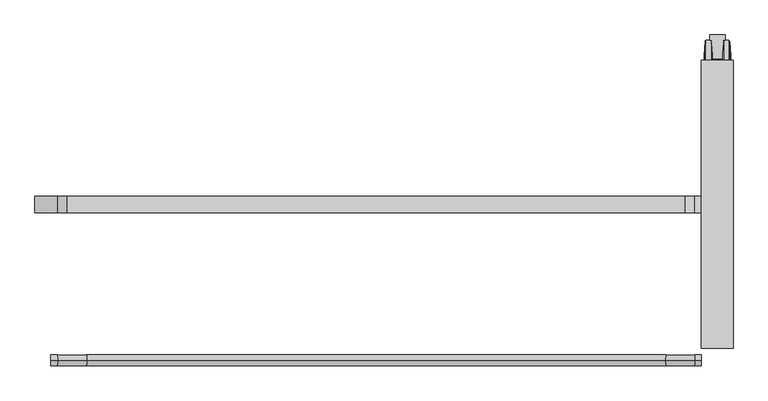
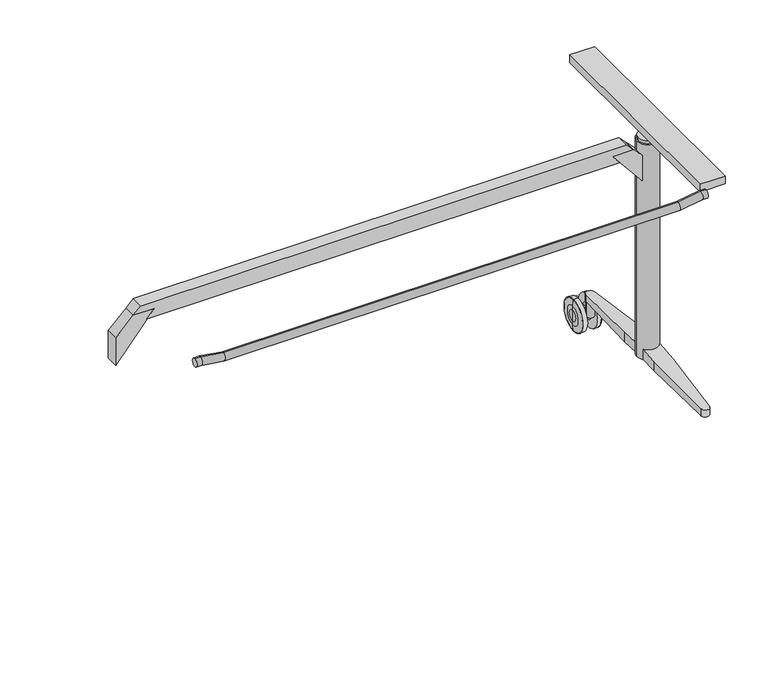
"""IFC4 building model written with IfcOpenShell, lengths in millimetres: furniture geometry, Table_Foldable_Wilkhahn_TimetableLift : 1500w x 750d (615/00)."""

from ifc_helpers import new_model, si_unit, point, frame, frame_2d, origin, place, context, project, spatial, polyline, circle_curve, ellipse_curve, trimmed, segment, composite_curve, outline, extrude, source, transform, mapped, element, save
from ifc_brep_helpers import plane_surface, cylinder_surface, revolved_surface, advanced_brep


def furniture_efb72d9c(model_context):
    return source(origin(), model_context, "Body", "SolidModel", [
        advanced_brep(
        [(620.4530674, 395.9511544, 26.9613134), (620.4530674, 395.9511544, 53.0387194), (620.4530674, 395.9511544, 40.0000164), (622.5845915, 395.9511544, 0.8972162), (622.5845915, 395.9511544, 79.1028166), (621.0121742, 395.9511544, 63.8876748), (621.0121742, 395.9511544, 16.1123581), (633.5439759, 395.9511544, 1.43e-05), (633.5439759, 395.9511544, 80.0000185), (623.5792938, 395.9511544, 80.0000185), (623.5792938, 395.9511544, 1.43e-05), (635.4530966, 395.9511544, 20.9999281), (635.4530966, 395.9511544, 59.0001048), (635.4530966, 395.9511544, 32.3463502), (635.4530966, 395.9511544, 47.6536826), (655.3531174, 395.9511544, 32.3463502), (655.3531174, 395.9511544, 47.6536826), (655.3531174, 395.9511544, 20.9999281), (655.3531174, 395.9511544, 59.0001048), (657.2622381, 395.9511544, 1.43e-05), (657.2622381, 395.9511544, 80.0000185), (666.3249398, 395.9511544, 1.43e-05), (666.3249398, 395.9511544, 80.0000185), (669.7942336, 395.9511544, 16.1142331), (669.7942336, 395.9511544, 63.8857997), (668.3143443, 395.9511544, 78.2056147), (668.3143443, 395.9511544, 1.7944182), (670.3531466, 395.9511544, 40.0000164), (670.3531466, 395.9511544, 53.0406045), (670.3531466, 395.9511544, 26.9594284)],
        [
            (0, 1, circle_curve(frame((620.4530674, 395.9511544, 40.0000164), z_axis=(-1.0, 0.0, 0.0), x_axis=(0.0, 0.0, 1.0)), 13.038703)),
            (1, 2),
            (2, 0),
            (1, 0, circle_curve(frame((620.4530674, 395.9511544, 40.0000164), z_axis=(-1.0, 0.0, 0.0), x_axis=(0.0, 0.0, 1.0)), 13.038703)),
            (3, 4, circle_curve(frame((622.5845915, 395.9511544, 40.0000164), z_axis=(-1.0, 0.0, 0.0), x_axis=(0.0, 0.0, 1.0)), 39.1028002)),
            (4, 5),
            (5, 6, circle_curve(frame((621.0121742, 395.9511544, 40.0000164), z_axis=(1.0, 0.0, 0.0), x_axis=(0.0, 0.0, 1.0)), 23.8876584)),
            (6, 3),
            (4, 3, circle_curve(frame((622.5845915, 395.9511544, 40.0000164), z_axis=(-1.0, 0.0, 0.0), x_axis=(0.0, 0.0, 1.0)), 39.1028002)),
            (6, 5, circle_curve(frame((621.0121742, 395.9511544, 40.0000164), z_axis=(1.0, 0.0, 0.0), x_axis=(0.0, 0.0, 1.0)), 23.8876584)),
            (7, 8, circle_curve(frame((633.5439759, 395.9511544, 40.0000164), z_axis=(-1.0, 0.0, 0.0), x_axis=(0.0, 0.0, 1.0)), 40.0000021)),
            (8, 9),
            (9, 10, circle_curve(frame((623.5792938, 395.9511544, 40.0000164), z_axis=(1.0, 0.0, 0.0), x_axis=(0.0, 0.0, 1.0)), 40.0000021)),
            (10, 7),
            (8, 7, circle_curve(frame((633.5439759, 395.9511544, 40.0000164), z_axis=(-1.0, 0.0, 0.0), x_axis=(0.0, 0.0, 1.0)), 40.0000021)),
            (10, 9, circle_curve(frame((623.5792938, 395.9511544, 40.0000164), z_axis=(1.0, 0.0, 0.0), x_axis=(0.0, 0.0, 1.0)), 40.0000021)),
            (11, 12, circle_curve(frame((635.4530966, 395.9511544, 40.0000164), z_axis=(-1.0, 0.0, 0.0), x_axis=(0.0, 0.0, 1.0)), 19.0000883)),
            (12, 8),
            (7, 11),
            (12, 11, circle_curve(frame((635.4530966, 395.9511544, 40.0000164), z_axis=(-1.0, 0.0, 0.0), x_axis=(0.0, 0.0, 1.0)), 19.0000883)),
            (13, 14, circle_curve(frame((635.4530966, 395.9511544, 40.0000164), z_axis=(-1.0, 0.0, 0.0), x_axis=(0.0, 0.0, 1.0)), 7.6536662)),
            (14, 12),
            (11, 13),
            (14, 13, circle_curve(frame((635.4530966, 395.9511544, 40.0000164), z_axis=(-1.0, 0.0, 0.0), x_axis=(0.0, 0.0, 1.0)), 7.6536662)),
            (15, 16, circle_curve(frame((655.3531174, 395.9511544, 40.0000164), z_axis=(-1.0, 0.0, 0.0), x_axis=(0.0, 0.0, 1.0)), 7.6536662)),
            (16, 14),
            (13, 15),
            (16, 15, circle_curve(frame((655.3531174, 395.9511544, 40.0000164), z_axis=(-1.0, 0.0, 0.0), x_axis=(0.0, 0.0, 1.0)), 7.6536662)),
            (17, 18, circle_curve(frame((655.3531174, 395.9511544, 40.0000164), z_axis=(-1.0, 0.0, 0.0), x_axis=(0.0, 0.0, 1.0)), 19.0000883)),
            (18, 16),
            (15, 17),
            (18, 17, circle_curve(frame((655.3531174, 395.9511544, 40.0000164), z_axis=(-1.0, 0.0, 0.0), x_axis=(0.0, 0.0, 1.0)), 19.0000883)),
            (19, 20, circle_curve(frame((657.2622381, 395.9511544, 40.0000164), z_axis=(-1.0, 0.0, 0.0), x_axis=(0.0, 0.0, 1.0)), 40.0000021)),
            (20, 18),
            (17, 19),
            (20, 19, circle_curve(frame((657.2622381, 395.9511544, 40.0000164), z_axis=(-1.0, 0.0, 0.0), x_axis=(0.0, 0.0, 1.0)), 40.0000021)),
            (21, 22, circle_curve(frame((666.3249398, 395.9511544, 40.0000164), z_axis=(-1.0, 0.0, 0.0), x_axis=(0.0, 0.0, 1.0)), 40.0000021)),
            (22, 20),
            (19, 21),
            (22, 21, circle_curve(frame((666.3249398, 395.9511544, 40.0000164), z_axis=(-1.0, 0.0, 0.0), x_axis=(0.0, 0.0, 1.0)), 40.0000021)),
            (23, 24, circle_curve(frame((669.7942336, 395.9511544, 40.0000164), z_axis=(-1.0, 0.0, 0.0), x_axis=(0.0, 0.0, 1.0)), 23.8857833)),
            (24, 25),
            (25, 26, circle_curve(frame((668.3143443, 395.9511544, 40.0000164), z_axis=(1.0, 0.0, 0.0), x_axis=(0.0, 0.0, 1.0)), 38.2055982)),
            (26, 23),
            (24, 23, circle_curve(frame((669.7942336, 395.9511544, 40.0000164), z_axis=(-1.0, 0.0, 0.0), x_axis=(0.0, 0.0, 1.0)), 23.8857833)),
            (26, 25, circle_curve(frame((668.3143443, 395.9511544, 40.0000164), z_axis=(1.0, 0.0, 0.0), x_axis=(0.0, 0.0, 1.0)), 38.2055982)),
            (27, 28),
            (28, 29, circle_curve(frame((670.3531466, 395.9511544, 40.0000164), z_axis=(1.0, 0.0, 0.0), x_axis=(0.0, 0.0, 1.0)), 13.0405881)),
            (29, 27),
            (29, 28, circle_curve(frame((670.3531466, 395.9511544, 40.0000164), z_axis=(1.0, 0.0, 0.0), x_axis=(0.0, 0.0, 1.0)), 13.0405881)),
            (5, 1, circle_curve(frame((725.9896451, 395.9511544, 53.0387194), z_axis=(0.0, -1.0, 0.0), x_axis=(-1.0, 0.0, 0.0)), 105.5365777)),
            (0, 6, circle_curve(frame((725.9896451, 395.9511544, 26.9613134), z_axis=(0.0, -1.0, 0.0), x_axis=(-1.0, 0.0, 0.0)), 105.5365777)),
            (9, 4, circle_curve(frame((623.5792938, 395.9511544, 79.0000185), z_axis=(0.0, -1.0, 0.0), x_axis=(-1.0, 0.0, 0.0)), 1.0)),
            (3, 10, circle_curve(frame((623.5792938, 395.9511544, 1.0000143), z_axis=(0.0, -1.0, 0.0), x_axis=(-1.0, 0.0, 0.0)), 1.0)),
            (25, 22, circle_curve(frame((666.3249398, 395.9511544, 78.0000185), z_axis=(0.0, -1.0, 0.0), x_axis=(-1.0, 0.0, 0.0)), 2.0)),
            (21, 26, circle_curve(frame((666.3249398, 395.9511544, 2.0000143), z_axis=(0.0, -1.0, 0.0), x_axis=(-1.0, 0.0, 0.0)), 2.0)),
            (28, 24, circle_curve(frame((564.8531466, 395.9511544, 53.0406045), z_axis=(0.0, -1.0, 0.0), x_axis=(-1.0, 0.0, 0.0)), 105.5)),
            (23, 29, circle_curve(frame((564.8531466, 395.9511544, 26.9594284), z_axis=(0.0, -1.0, 0.0), x_axis=(-1.0, 0.0, 0.0)), 105.5)),
        ],
        [
            plane_surface(frame((620.4530674, 395.9511544, 40.0000164), z_axis=(-1.0, 0.0, 0.0), x_axis=(0.0, 0.0, 1.0))),
            revolved_surface(polyline([(621.0121742, 395.9511544, 63.8876748), (622.5845915, 395.9511544, 79.1028166)]), (686.1531192, 395.9511544, 40.0000164), (1.0, 0.0, 0.0)),
            cylinder_surface(frame((686.1531192, 395.9511544, 40.0000164), z_axis=(1.0, 0.0, 0.0), x_axis=(0.0, 0.0, 1.0)), 40.0000021),
            revolved_surface(polyline([(633.5439759, 395.9511544, 80.0000185), (635.4530966, 395.9511544, 59.0001048)]), (686.1531192, 395.9511544, 40.0000164), (1.0, 0.0, 0.0)),
            plane_surface(frame((635.4530966, 395.9511544, 40.0000164), z_axis=(1.0, 0.0, 0.0), x_axis=(0.0, 0.0, 1.0))),
            cylinder_surface(frame((686.1531192, 395.9511544, 40.0000164), z_axis=(1.0, 0.0, 0.0), x_axis=(0.0, 0.0, 1.0)), 7.6536662),
            plane_surface(frame((655.3531174, 395.9511544, 40.0000164), z_axis=(-1.0, 0.0, 0.0), x_axis=(0.0, 0.0, 1.0))),
            revolved_surface(polyline([(655.3531174, 395.9511544, 59.0001048), (657.2622381, 395.9511544, 80.0000185)]), (686.1531192, 395.9511544, 40.0000164), (1.0, 0.0, 0.0)),
            revolved_surface(polyline([(668.3143443, 395.9511544, 78.2056147), (669.7942336, 395.9511544, 63.8857997)]), (686.1531192, 395.9511544, 40.0000164), (1.0, 0.0, 0.0)),
            plane_surface(frame((670.3531466, 395.9511544, 40.0000164), z_axis=(1.0, 0.0, 0.0), x_axis=(0.0, 0.0, 1.0))),
            revolved_surface(trimmed(ellipse_curve(frame((725.9896451, 395.9511544, 53.0387194), z_axis=(0.0, 1.0, 0.0), x_axis=(-1.0, 0.0, 0.0)), 105.5365777, 105.5365777), [point((620.4530674, 395.9511544, 53.0387194))], [point((621.0121742, 395.9511544, 63.8876748))], True, "CARTESIAN"), (686.1531192, 395.9511544, 40.0000164), (1.0, 0.0, 0.0)),
            revolved_surface(trimmed(ellipse_curve(frame((623.5792938, 395.9511544, 79.0000185), z_axis=(0.0, 1.0, 0.0), x_axis=(-1.0, 0.0, 0.0)), 1.0, 1.0), [point((622.5845915, 395.9511544, 79.1028166))], [point((623.5792938, 395.9511544, 80.0000185))], True, "CARTESIAN"), (686.1531192, 395.9511544, 40.0000164), (1.0, 0.0, 0.0)),
            revolved_surface(trimmed(ellipse_curve(frame((666.3249398, 395.9511544, 78.0000185), z_axis=(0.0, 1.0, 0.0), x_axis=(-1.0, 0.0, 0.0)), 2.0, 2.0), [point((666.3249398, 395.9511544, 80.0000185))], [point((668.3143443, 395.9511544, 78.2056147))], True, "CARTESIAN"), (686.1531192, 395.9511544, 40.0000164), (1.0, 0.0, 0.0)),
            revolved_surface(trimmed(ellipse_curve(frame((564.8531466, 395.9511544, 53.0406045), z_axis=(0.0, 1.0, 0.0), x_axis=(-1.0, 0.0, 0.0)), 105.5, 105.5), [point((669.7942336, 395.9511544, 63.8857997))], [point((670.3531466, 395.9511544, 53.0406045))], True, "CARTESIAN"), (686.1531192, 395.9511544, 40.0000164), (1.0, 0.0, 0.0)),
        ],
        [
            (0, [[1, 2, 3]]),
            (0, [[4, -3, -2]]),
            (1, [[5, 6, 7, 8]]),
            (1, [[9, -8, 10, -6]]),
            (2, [[11, 12, 13, 14]]),
            (2, [[15, -14, 16, -12]]),
            (3, [[17, 18, -11, 19]]),
            (3, [[20, -19, -15, -18]]),
            (4, [[21, 22, -17, 23]]),
            (4, [[24, -23, -20, -22]]),
            (5, [[25, 26, -21, 27]]),
            (5, [[28, -27, -24, -26]]),
            (6, [[29, 30, -25, 31]]),
            (6, [[32, -31, -28, -30]]),
            (7, [[33, 34, -29, 35]]),
            (7, [[36, -35, -32, -34]]),
            (2, [[37, 38, -33, 39]]),
            (2, [[40, -39, -36, -38]]),
            (8, [[41, 42, 43, 44]]),
            (8, [[45, -44, 46, -42]]),
            (9, [[47, 48, 49]]),
            (9, [[-49, 50, -47]]),
            (10, [[-7, 51, -1, 52]]),
            (10, [[-10, -52, -4, -51]]),
            (11, [[-13, 53, -5, 54]]),
            (11, [[-16, -54, -9, -53]]),
            (12, [[-43, 55, -37, 56]]),
            (12, [[-46, -56, -40, -55]]),
            (13, [[-48, 57, -41, 58]]),
            (13, [[-50, -58, -45, -57]]),
        ],
    ),
        advanced_brep(
        [(665.0000252, 110.1174444, 100.5064747), (665.0000252, 110.1174444, 125.9916346), (665.0000252, 54.8340926, 121.3203113), (665.0000252, 54.8340926, 97.609197), (625.0000252, 110.1174444, 125.9916346), (625.0000252, 110.1174444, 100.5064747), (625.0000252, 65.6906566, 98.1781655), (625.0000252, 65.6906566, 122.2376674), (655.3504791, -113.0675149, 88.8098467), (635.2734538, -113.0675149, 88.8098467), (635.3284401, -114.0242798, 107.0521452), (655.2954923, -114.0242831, 107.0521449), (655.2954923, -114.0242831, 88.8098467), (635.3284401, -114.0242798, 88.8098467)],
        [
            (0, 1),
            (1, 2),
            (2, 3),
            (3, 0),
            (4, 5),
            (5, 6),
            (6, 7),
            (7, 4),
            (5, 0),
            (3, 8),
            (8, 9),
            (9, 6),
            (1, 4),
            (7, 10),
            (10, 11, ellipse_curve(frame((645.3119663, -113.4505156, 107.100627), z_axis=(0.0, -0.08419778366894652, 0.9964490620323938), x_axis=(0.0, -0.9964490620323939, -0.08419778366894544)), 10.0356359, 10.0)),
            (11, 2),
            (8, 12),
            (12, 13, circle_curve(frame((645.3119663, -113.4505156, 88.8098467), z_axis=(0.0, 0.0, -1.0), x_axis=(-1.0, 0.0, 0.0)), 10.0)),
            (13, 9),
            (13, 10),
            (12, 11),
        ],
        [
            plane_surface(frame((665.0000252, 110.1174444, 100.5064747), z_axis=(1.0, 0.0, 0.0), x_axis=(0.0, 0.9986295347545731, 0.05233595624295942))),
            plane_surface(frame((625.0000252, 110.1174444, 100.5064747), z_axis=(-1.0, 0.0, 0.0), x_axis=(0.0, -0.9986295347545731, -0.05233595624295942))),
            plane_surface(frame((665.0000252, -113.0675149, 88.8098467), z_axis=(0.0, 0.05233595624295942, -0.9986295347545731), x_axis=(-1.0, 0.0, 0.0))),
            plane_surface(frame((665.0000252, 110.1174444, 125.9916346), z_axis=(0.0, -0.08419778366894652, 0.9964490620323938), x_axis=(-1.0, 0.0, 0.0))),
            plane_surface(frame((665.0000252, -124.5346363, 88.8098467), z_axis=(0.0, 0.0, -1.0), x_axis=(-1.0, 0.0, 0.0))),
            plane_surface(frame((635.3284401, -114.0242798, 234.8098558), z_axis=(-0.9983526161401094, -0.05737642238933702, 0.0), x_axis=(0.0, 0.0, -1.0))),
            cylinder_surface(frame((645.3119663, -113.4505156, -14.1901527), z_axis=(0.0, 0.0, -1.0), x_axis=(-1.0, 0.0, 0.0)), 10.0),
            plane_surface(frame((668.1772387, 110.1174444, 234.8098558), z_axis=(0.998352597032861, -0.0573767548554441, 0.0), x_axis=(0.0, 0.0, -1.0))),
            plane_surface(frame((665.0000252, 110.1174444, 100.5064747), z_axis=(0.0, 1.0, 0.0), x_axis=(-1.0, 0.0, 0.0))),
        ],
        [
            (0, [[1, 2, 3, 4]]),
            (1, [[5, 6, 7, 8]]),
            (2, [[9, -4, 10, 11, 12, -6]]),
            (3, [[13, -8, 14, 15, 16, -2]]),
            (4, [[-11, 17, 18, 19]]),
            (5, [[20, -14, -7, -12, -19]]),
            (6, [[-20, -18, 21, -15]]),
            (7, [[-21, -17, -10, -3, -16]]),
            (8, [[-1, -9, -5, -13]]),
        ],
    ),
        advanced_brep(
        [(665.0000252, 141.7848644, 125.5064747), (665.0000252, 141.7848644, 100.5064747), (665.0000252, 197.0682163, 97.609197), (665.0000252, 197.0682163, 120.8815538), (625.0000252, 141.7848644, 100.5064747), (625.0000252, 141.7848644, 125.5064747), (625.0000252, 186.2116523, 121.7897974), (625.0000252, 186.2116523, 98.1781655), (635.2734538, 364.9698238, 88.8098467), (655.3504791, 364.9698238, 88.8098467), (655.2954923, 365.926592, 106.7551193), (635.3284401, 365.9265887, 106.7551196), (635.3284401, 365.9265887, 88.8098467), (655.2954923, 365.926592, 88.8098467)],
        [
            (0, 1),
            (1, 2),
            (2, 3),
            (3, 0),
            (4, 5),
            (5, 6),
            (6, 7),
            (7, 4),
            (1, 4),
            (7, 8),
            (8, 9),
            (9, 2),
            (0, 5),
            (3, 10),
            (10, 11, ellipse_curve(frame((645.3119663, 365.3528245, 106.8031198), z_axis=(0.0, 0.08336725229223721, 0.996518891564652), x_axis=(0.0, 0.996518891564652, -0.08336725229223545)), 10.0349327, 10.0)),
            (11, 6),
            (8, 12),
            (12, 13, circle_curve(frame((645.3119663, 365.3528245, 88.8098467), z_axis=(0.0, 0.0, -1.0), x_axis=(-1.0, 0.0, 0.0)), 10.0)),
            (13, 9),
            (11, 12),
            (10, 13),
        ],
        [
            plane_surface(frame((665.0000252, 110.1174444, 100.5064747), z_axis=(1.0, 0.0, 0.0), x_axis=(0.0, 0.9986295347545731, 0.05233595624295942))),
            plane_surface(frame((625.0000252, 110.1174444, 100.5064747), z_axis=(-1.0, 0.0, 0.0), x_axis=(0.0, -0.9986295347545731, -0.05233595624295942))),
            plane_surface(frame((665.0000252, 141.7848644, 100.5064747), z_axis=(0.0, -0.0523359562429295, -0.9986295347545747), x_axis=(-1.0, 0.0, 0.0))),
            plane_surface(frame((665.0000252, 141.7848644, 125.5064747), z_axis=(0.0, -1.0, 0.0), x_axis=(-1.0, 0.0, 0.0))),
            plane_surface(frame((665.0000252, 376.4369452, 105.8758392), z_axis=(0.0, 0.08336725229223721, 0.996518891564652), x_axis=(-1.0, 0.0, 0.0))),
            plane_surface(frame((665.0000252, 364.9698238, 88.8098467), z_axis=(0.0, 0.0, -1.0), x_axis=(-1.0, 0.0, 0.0))),
            plane_surface(frame((622.5013837, 142.7351655, 234.8098558), z_axis=(-0.998352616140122, 0.05737642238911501, 0.0), x_axis=(0.0, 0.0, -1.0))),
            cylinder_surface(frame((645.3119663, 365.3528245, -14.1901527), z_axis=(0.0, 0.0, -1.0), x_axis=(-1.0, 0.0, 0.0)), 10.0),
            plane_surface(frame((655.2954923, 365.926592, 234.8098558), z_axis=(0.9983525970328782, 0.05737675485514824, 0.0), x_axis=(0.0, 0.0, -1.0))),
        ],
        [
            (0, [[1, 2, 3, 4]]),
            (1, [[5, 6, 7, 8]]),
            (2, [[9, -8, 10, 11, 12, -2]]),
            (3, [[-1, 13, -5, -9]]),
            (4, [[-13, -4, 14, 15, 16, -6]]),
            (5, [[-11, 17, 18, 19]]),
            (6, [[20, -17, -10, -7, -16]]),
            (7, [[-20, -15, 21, -18]]),
            (8, [[-21, -14, -3, -12, -19]]),
        ],
    ),
        extrude(outline(composite_curve([segment(trimmed(circle_curve(frame_2d((645.0000252, 125.9511544)), 22.0748856), [point((667.0749108, 125.9511544))], [point((622.9251395, 125.9511544))], False, "CARTESIAN"), True, "CONTINUOUS"), segment(trimmed(circle_curve(frame_2d((645.0000252, 125.9511544)), 22.0748856), [point((622.9251395, 125.9511544))], [point((667.0749108, 125.9511544))], False, "CARTESIAN"), True, "CONTINUOUS")], self_intersect=False)), frame((0.0, 0.0, 648.5142032), z_axis=(0.0, 0.0, 1.0), x_axis=(1.0, 0.0, 0.0)), (0.0, 0.0, 1.0), 7.7231854),
        extrude(outline(polyline([(46.8012701, 659.9796901), (46.8012701, 630.8589951), (33.7579803, 633.5602115), (33.7579803, 657.2784737), (46.8012701, 659.9796901)])), frame((0.0, 395.9511544, 0.0), z_axis=(0.0, 1.0, 0.0), x_axis=(0.0, 0.0, 1.0)), (0.0, 0.0, 1.0), 50.0),
        extrude(outline(composite_curve([segment(trimmed(circle_curve(frame_2d((645.0000252, 125.9511544)), 21.8066495), [point((666.8066747, 125.9511544))], [point((623.1933756, 125.9511544))], False, "CARTESIAN"), True, "CONTINUOUS"), segment(trimmed(circle_curve(frame_2d((645.0000252, 125.9511544)), 21.8066495), [point((623.1933756, 125.9511544))], [point((666.8066747, 125.9511544))], False, "CARTESIAN"), True, "CONTINUOUS")], self_intersect=False)), frame((0.0, 0.0, 672.2302641), z_axis=(0.0, 0.0, 1.0), x_axis=(1.0, 0.0, 0.0)), (0.0, 0.0, 1.0), 12.7697121),
        extrude(outline(composite_curve([segment(trimmed(circle_curve(frame_2d((645.5388896, 365.7419216)), 9.5), [point((655.0388896, 365.7419216))], [point((636.0388896, 365.7419216))], False, "CARTESIAN"), True, "CONTINUOUS"), segment(trimmed(circle_curve(frame_2d((645.5388896, 365.7419216)), 9.5), [point((636.0388896, 365.7419216))], [point((655.0388896, 365.7419216))], False, "CARTESIAN"), True, "CONTINUOUS")], self_intersect=False)), frame((0.0, 0.0, 50.0000143), z_axis=(0.0, 0.0, 1.0), x_axis=(1.0, 0.0, 0.0)), (0.0, 0.0, 1.0), 38.8098324),
        extrude(outline(composite_curve([segment(trimmed(circle_curve(frame_2d((645.0, 125.9511544)), 26.0), [point((671.0, 125.9511544))], [point((619.0, 125.9511544))], False, "CARTESIAN"), True, "CONTINUOUS"), segment(trimmed(circle_curve(frame_2d((645.0, 125.9511544)), 26.0), [point((619.0, 125.9511544))], [point((671.0, 125.9511544))], False, "CARTESIAN"), True, "CONTINUOUS")], self_intersect=False)), frame((0.0, 0.0, 100.2652558), z_axis=(0.0, 0.0, 1.0), x_axis=(1.0, 0.0, 0.0)), (0.0, 0.0, 1.0), 548.2489474),
        extrude(outline(polyline([(659.9544603, -584.0633969), (642.2767908, -601.7410664), (642.2767908, -551.7410664), (621.0635874, -569.2634425), (621.0635874, 569.2634425), (642.2767908, 551.7410664), (642.2767908, 601.7410664), (659.9544603, 584.0633969), (659.9544603, -584.0633969)])), frame((0.0, 109.7857178, 0.0), z_axis=(0.0, 1.0, 0.0), x_axis=(0.0, 0.0, 1.0)), (0.0, 0.0, 1.0), 31.1654367),
        extrude(outline(polyline([(599.7944959, 644.2233613), (642.2767908, 601.7410664), (642.2767908, 551.7410664), (530.3144788, 644.2233613), (599.7944959, 644.2233613)])), frame((0.0, 109.7857178, 0.0), z_axis=(0.0, 1.0, 0.0), x_axis=(0.0, 0.0, 1.0)), (0.0, 0.0, 1.0), 31.1654367),
        extrude(outline(polyline([(599.0178177, -645.0000395), (529.3742049, -645.0000395), (642.2767908, -551.7410664), (642.2767908, -601.7410664), (599.0178177, -645.0000395)])), frame((0.0, 109.7857178, 0.0), z_axis=(0.0, 1.0, 0.0), x_axis=(0.0, 0.0, 1.0)), (0.0, 0.0, 1.0), 31.1654367),
        extrude(outline(polyline([(615.0000395, 397.9511544), (675.0000109, 397.9511544), (675.0000109, -146.0488456), (615.0000395, -146.0488456), (615.0000395, 397.9511544)])), frame((0.0, 0.0, 684.9999762), z_axis=(0.0, 0.0, 1.0), x_axis=(1.0, 0.0, 0.0)), (0.0, 0.0, 1.0), 20.0000238),
        advanced_brep(
        [(-615.0000395, -169.1884095, 705.4672388), (-615.0000395, -169.1884095, 685.4672388), (615.0000395, -169.1884095, 705.4672388), (615.0000395, -169.1884095, 685.4672388), (-602.0892263, -169.1884095, 705.4672388), (-603.5361626, -169.1884095, 685.4672388), (-547.0892404, -169.1884095, 697.4672184), (-548.5361767, -169.1884095, 677.4672184), (547.089229, -169.1884095, 697.4672184), (548.5361653, -169.1884095, 677.4672184), (602.0892149, -169.1884095, 705.4672388), (603.5361512, -169.1884095, 685.4672388)],
        [
            (0, 1, circle_curve(frame((-615.0000395, -169.1884095, 695.4672388), z_axis=(-1.0, 0.0, 0.0), x_axis=(0.0, 0.0, -1.0)), 10.0)),
            (1, 0, circle_curve(frame((-615.0000395, -169.1884095, 695.4672388), z_axis=(-1.0, 0.0, 0.0), x_axis=(0.0, 0.0, -1.0)), 10.0)),
            (2, 3, circle_curve(frame((615.0000395, -169.1884095, 695.4672388), z_axis=(1.0, 0.0, 0.0), x_axis=(0.0, 0.0, -1.0)), 10.0)),
            (3, 2, circle_curve(frame((615.0000395, -169.1884095, 695.4672388), z_axis=(1.0, 0.0, 0.0), x_axis=(0.0, 0.0, -1.0)), 10.0)),
            (0, 4),
            (4, 5, ellipse_curve(frame((-602.8126945, -169.1884095, 695.4672388), z_axis=(-0.9973931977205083, 0.0, 0.07215822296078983), x_axis=(-0.07215822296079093, 0.0, -0.997393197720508)), 10.0261362, 10.0)),
            (5, 1),
            (5, 4, ellipse_curve(frame((-602.8126945, -169.1884095, 695.4672388), z_axis=(-0.9973931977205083, 0.0, 0.07215822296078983), x_axis=(-0.07215822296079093, 0.0, -0.997393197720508)), 10.0261362, 10.0)),
            (4, 6),
            (6, 7, ellipse_curve(frame((-547.8127086, -169.1884095, 687.4672184), z_axis=(-0.9973931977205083, 0.0, 0.07215822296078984), x_axis=(0.07215822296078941, 0.0, 0.9973931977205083)), 10.0261362, 10.0)),
            (7, 5),
            (7, 6, ellipse_curve(frame((-547.8127086, -169.1884095, 687.4672184), z_axis=(-0.9973931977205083, 0.0, 0.07215822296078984), x_axis=(0.07215822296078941, 0.0, 0.9973931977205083)), 10.0261362, 10.0)),
            (6, 8),
            (8, 9, ellipse_curve(frame((547.8126971, -169.1884095, 687.4672184), z_axis=(-0.997393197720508, 0.0, -0.07215822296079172), x_axis=(-0.07215822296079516, 0.0, 0.9973931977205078)), 10.0261362, 10.0)),
            (9, 7),
            (9, 8, ellipse_curve(frame((547.8126971, -169.1884095, 687.4672184), z_axis=(-0.997393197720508, 0.0, -0.07215822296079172), x_axis=(-0.07215822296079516, 0.0, 0.9973931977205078)), 10.0261362, 10.0)),
            (8, 10),
            (10, 11, ellipse_curve(frame((602.812683, -169.1884095, 695.4672388), z_axis=(-0.997393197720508, 0.0, -0.0721582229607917), x_axis=(0.07215822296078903, 0.0, -0.9973931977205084)), 10.0261362, 10.0)),
            (11, 9),
            (11, 10, ellipse_curve(frame((602.812683, -169.1884095, 695.4672388), z_axis=(-0.997393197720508, 0.0, -0.0721582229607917), x_axis=(0.07215822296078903, 0.0, -0.9973931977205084)), 10.0261362, 10.0)),
            (10, 2),
            (3, 11),
        ],
        [
            plane_surface(frame((-615.0000395, -249.0488456, 665.2336856), z_axis=(-1.0, 0.0, 0.0), x_axis=(0.0, 1.0, 0.0))),
            plane_surface(frame((615.0000395, -249.0488456, 665.2336856), z_axis=(1.0, 0.0, 0.0), x_axis=(0.0, 1.0, 0.0))),
            cylinder_surface(frame((-615.0000395, -169.1884095, 695.4672388), z_axis=(-1.0, 0.0, 0.0), x_axis=(0.0, 0.0, -1.0)), 10.0),
            cylinder_surface(frame((-600.6481708, -169.1884095, 695.1523982), z_axis=(-0.989586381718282, 0.0, 0.14394024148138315), x_axis=(-0.14394024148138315, 0.0, -0.989586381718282)), 10.0),
            cylinder_surface(frame((-550.0000099, -169.1884095, 687.4672184), z_axis=(-1.0, 0.0, 0.0), x_axis=(0.0, 0.0, -1.0)), 10.0),
            cylinder_surface(frame((545.6481735, -169.1884095, 687.1523777), z_axis=(-0.9895863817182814, 0.0, -0.14394024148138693), x_axis=(0.14394024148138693, 0.0, -0.9895863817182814)), 10.0),
            cylinder_surface(frame((604.9999844, -169.1884095, 695.4672388), z_axis=(-1.0, 0.0, 0.0), x_axis=(0.0, 0.0, -1.0)), 10.0),
        ],
        [
            (0, [[1, 2]]),
            (1, [[3, 4]]),
            (2, [[-1, 5, 6, 7]]),
            (2, [[-2, -7, 8, -5]]),
            (3, [[-6, 9, 10, 11]]),
            (3, [[-8, -11, 12, -9]]),
            (4, [[-10, 13, 14, 15]]),
            (4, [[-12, -15, 16, -13]]),
            (5, [[-14, 17, 18, 19]]),
            (5, [[-16, -19, 20, -17]]),
            (6, [[-18, 21, -4, 22]]),
            (6, [[-20, -22, -3, -21]]),
        ],
    ),
    ])


if __name__ == "__main__":
    model = new_model("IFC4")
    model_context = context("Model", 3, world=origin())
    ifc_project = project(units=[si_unit("LENGTHUNIT", "METRE", prefix="MILLI")], contexts=[model_context])
    site = spatial("IfcSite", under=ifc_project)
    building = spatial("IfcBuilding", under=site)
    placement = place(None, origin())
    furniture_shape = furniture_efb72d9c(model_context)
    element("IfcFurniture", 1, ObjectType="Table_Foldable_Wilkhahn_TimetableLift : 1500w x 750d (615/00)", at=placement, inside=building, context=model_context, shape_type="MappedRepresentation", body=[
        mapped(furniture_shape, transform((0.0, 0.0, 0.0), x_axis=(1.0, 0.0, 0.0), y_axis=(0.0, 1.0, 0.0), z_axis=(0.0, 0.0, 1.0))),
    ])
    save(model, "model.ifc")
